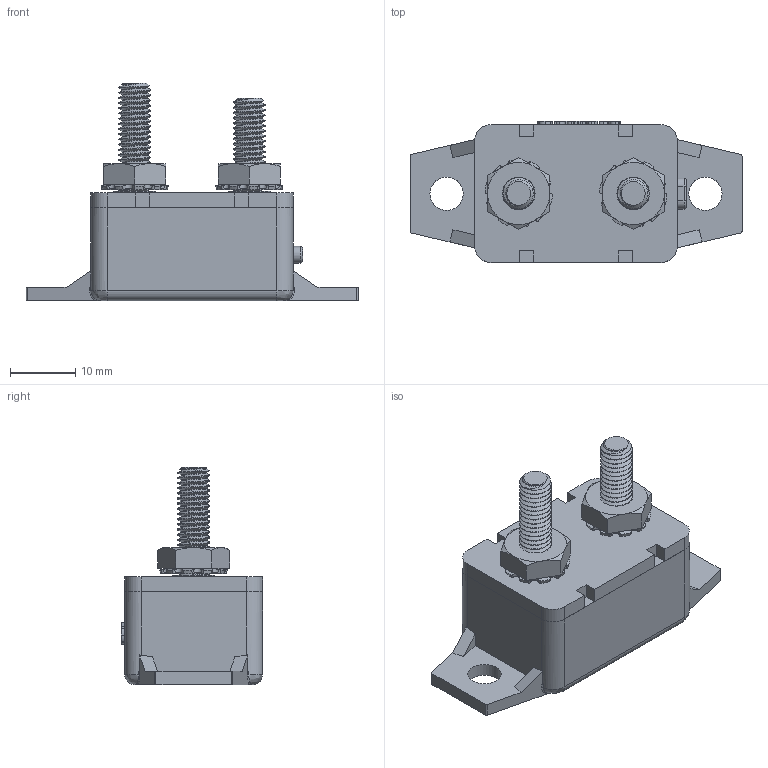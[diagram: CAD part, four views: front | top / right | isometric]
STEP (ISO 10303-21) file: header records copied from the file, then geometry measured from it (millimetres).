
FILE_DESCRIPTION(/* description */ (''),/* implementation_level */ '2;1');
FILE_NAME(/* name */ 'C:\Users\Hani\Desktop\work\MRCBP-V-Gray\MRCBP-V.stp',/* time_stamp */ '2021-08-06T14:44:42-07:00',/* author */ ('Hani'),/* organization */ (''),/* preprocessor_version */ 'ST-DEVELOPER v17',/* originating_system */ 'Autodesk Inventor 2019',/* authorisation */ '');
FILE_SCHEMA (('AUTOMOTIVE_DESIGN { 1 0 10303 214 3 1 1 }'));
Length unit declared in the file: inch
Products named in the file (4): ACBP-V; ACBP-V_1; THREADED ROD; HEX NUT WITH TOOTH WASHER
Assembly tree (5 placements, depth 2):
  ACBP-V
    ACBP-V_1
    THREADED ROD  x2
    HEX NUT WITH TOOTH WASHER  x2
Bounding box: 50.8 x 21.59 x 33.27 mm (x, y, z)
Volume: 12220 mm3; surface area: 6704 mm2
Topology: 8 solids, 8 shells, 491 faces, 1370 edges, 912 vertices
Faces by surface type: cylinder 168, plane 152, bspline 123, cone 46, torus 2
Full cylindrical faces by diameter (mm): 3.795 x46, 3.967 x6, 4.826 x52, 5.08 x2, 6.35 x2, 6.413 x2
Entity records: 17894 total; most frequent: CARTESIAN_POINT 9395, ORIENTED_EDGE 1996, DIRECTION 1340, EDGE_CURVE 998, VERTEX_POINT 664, LINE 474, VECTOR 474, AXIS2_PLACEMENT_3D 433
